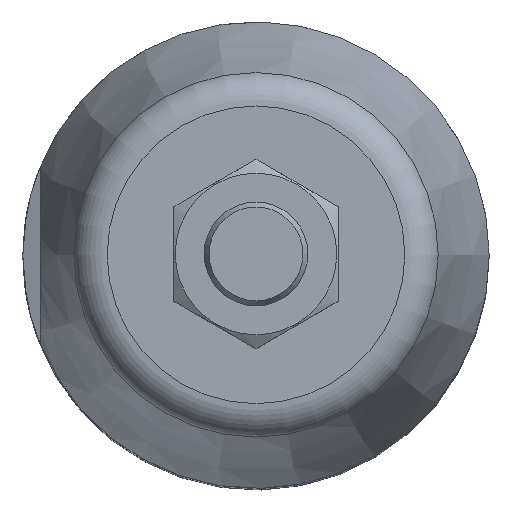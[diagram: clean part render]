
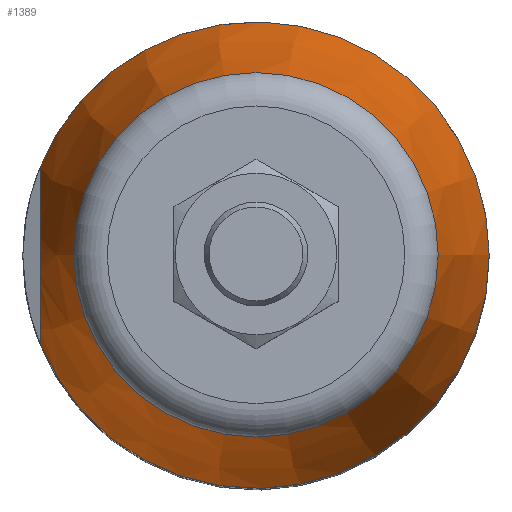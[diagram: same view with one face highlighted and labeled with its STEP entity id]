
A CAD part, top view. The second image highlights one B-rep face of the part: STEP entity #1389.
In plain terms, the highlighted conical face has half-angle 15 degrees and reference radius 24.048 mm.
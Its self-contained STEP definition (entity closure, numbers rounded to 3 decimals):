
#60=(
BOUNDED_CURVE()
B_SPLINE_CURVE(2,(#2337,#2338,#2339),.UNSPECIFIED.,.F.,.F.)
B_SPLINE_CURVE_WITH_KNOTS((3,3),(0.606,3.641),
 .UNSPECIFIED.)
CURVE()
GEOMETRIC_REPRESENTATION_ITEM()
RATIONAL_B_SPLINE_CURVE((1.04,1.123,1.04))
REPRESENTATION_ITEM('')
);
#210=CONICAL_SURFACE('',#1563,24.048,15.);
#337=FACE_BOUND('',#552,.T.);
#410=FACE_OUTER_BOUND('',#551,.T.);
#551=EDGE_LOOP('',(#1173,#1174));
#552=EDGE_LOOP('',(#1175));
#639=CIRCLE('',#1561,27.);
#640=CIRCLE('',#1564,21.096);
#736=VERTEX_POINT('',#2335);
#737=VERTEX_POINT('',#2336);
#745=VERTEX_POINT('',#2365);
#885=EDGE_CURVE('',#736,#737,#60,.T.);
#895=EDGE_CURVE('',#737,#736,#639,.T.);
#896=EDGE_CURVE('',#745,#745,#640,.T.);
#1173=ORIENTED_EDGE('',*,*,#885,.T.);
#1174=ORIENTED_EDGE('',*,*,#895,.T.);
#1175=ORIENTED_EDGE('',*,*,#896,.F.);
#1389=ADVANCED_FACE('',(#410,#337),#210,.T.);
#1561=AXIS2_PLACEMENT_3D('',#2362,#1913,#1914);
#1563=AXIS2_PLACEMENT_3D('',#2364,#1917,#1918);
#1564=AXIS2_PLACEMENT_3D('',#2366,#1919,#1920);
#1913=DIRECTION('center_axis',(-1.,0.,0.));
#1914=DIRECTION('ref_axis',(0.,0.,1.));
#1917=DIRECTION('center_axis',(1.,0.,0.));
#1918=DIRECTION('ref_axis',(0.,0.,1.));
#1919=DIRECTION('center_axis',(-1.,0.,0.));
#1920=DIRECTION('ref_axis',(0.,0.,1.));
#2335=CARTESIAN_POINT('',(-20.,-10.198,25.));
#2336=CARTESIAN_POINT('',(-20.,10.198,25.));
#2337=CARTESIAN_POINT('Ctrl Pts',(-20.,-10.198,25.));
#2338=CARTESIAN_POINT('Ctrl Pts',(-34.375,0.,
25.));
#2339=CARTESIAN_POINT('Ctrl Pts',(-20.,10.198,25.));
#2362=CARTESIAN_POINT('Origin',(-20.,0.,0.));
#2364=CARTESIAN_POINT('Origin',(-31.018,0.,0.));
#2365=CARTESIAN_POINT('',(-42.035,0.,21.096));
#2366=CARTESIAN_POINT('Origin',(-42.035,0.,0.));
